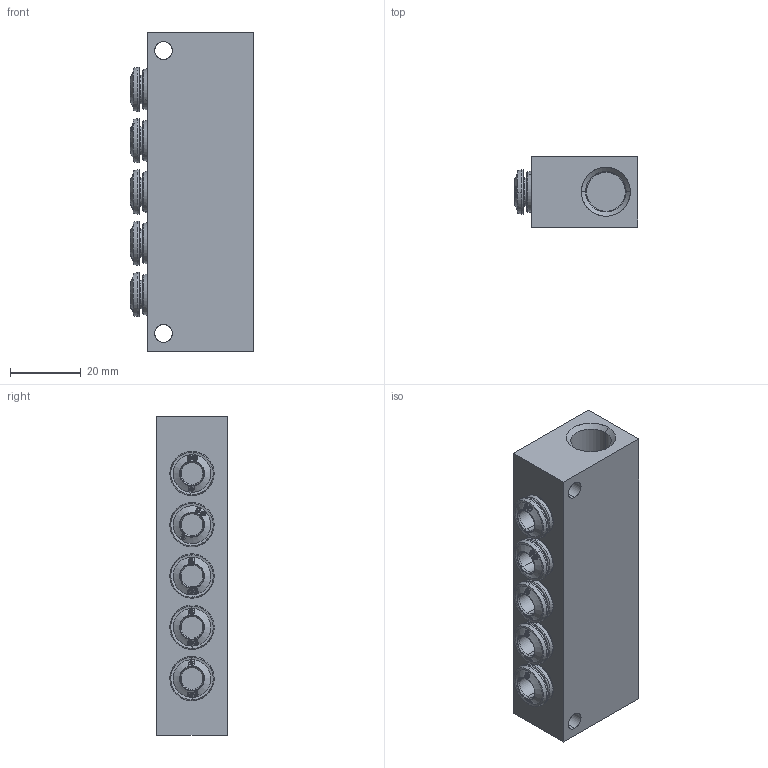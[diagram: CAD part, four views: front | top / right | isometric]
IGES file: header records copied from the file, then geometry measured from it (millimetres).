
Start section: SolidWorks IGES file using analytic representation for surfaces
Global section: file name: K:\Disegni Esecutivi\Serie 50000\ASSIEMI\50900\ASSIEMI_PIENI_50900\5090000003.IGS; native system: SolidWorks 2007; preprocessor: SolidWorks 2007; author: cad02; date: 071011.164037; units: millimetre
Bounding box: 34.9 x 20 x 90 mm (x, y, z)
Surface area: 14826 mm2 (no closed solid volume)
Topology: 0 solids, 0 shells, 553 faces, 7095 edges, 7095 vertices
Faces by surface type: bspline 328, revolution 225
